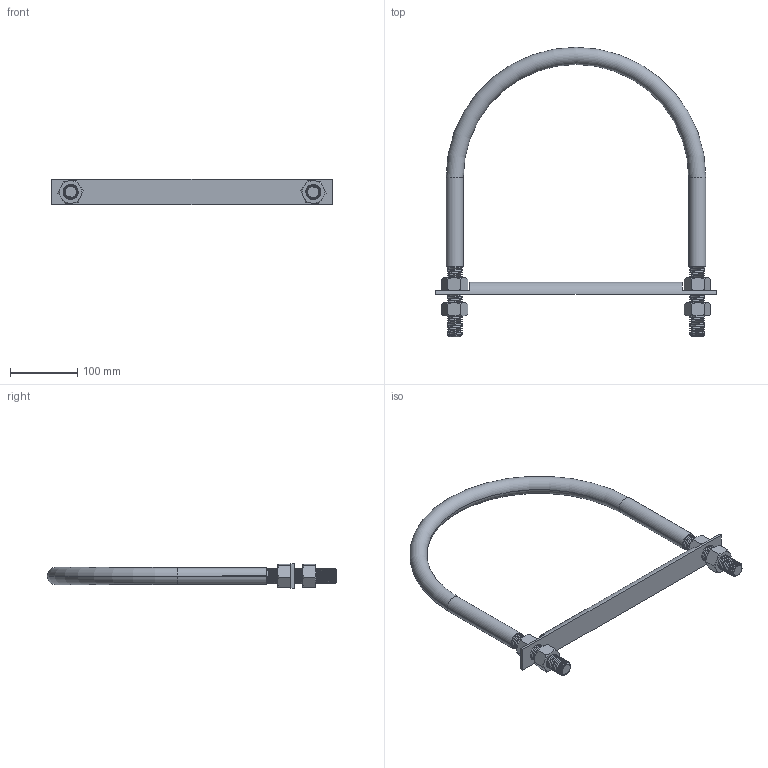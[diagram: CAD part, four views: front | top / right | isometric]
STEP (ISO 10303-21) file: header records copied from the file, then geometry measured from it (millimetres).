
FILE_DESCRIPTION (( 'STEP AP214' ), '1' );
FILE_NAME ('NUB1472.STEP', '2022-04-04T17:38:20', ( '' ), ( '' ), 'SwSTEP 2.0', 'SolidWorks 2021', '' );
FILE_SCHEMA (( 'AUTOMOTIVE_DESIGN' ));
Length unit declared in the file: inch
Products named in the file (4): FAS0049; UBT0999_UBT19-12-0.875-9  XL[NUB1472]; NUB1472; ROD0646_IR19-12 XL [NUB1472]
Assembly tree (6 placements, depth 2):
  NUB1472
    FAS0049  x4
    UBT0999_UBT19-12-0.875-9  XL[NUB1472]
    ROD0646_IR19-12 XL [NUB1472]
Bounding box: 419.1 x 431.9 x 38.02 mm (x, y, z)
Volume: 732615.5 mm3; surface area: 268702.2 mm2
Topology: 7 solids, 7 shells, 308 faces, 794 edges, 500 vertices
Faces by surface type: cylinder 183, cone 70, plane 45, torus 6, bspline 4
Entity records: 17651 total; most frequent: CARTESIAN_POINT 12521, ORIENTED_EDGE 1228, DIRECTION 798, EDGE_CURVE 614, VERTEX_POINT 398, AXIS2_PLACEMENT_3D 297, EDGE_LOOP 232, ADVANCED_FACE 224
